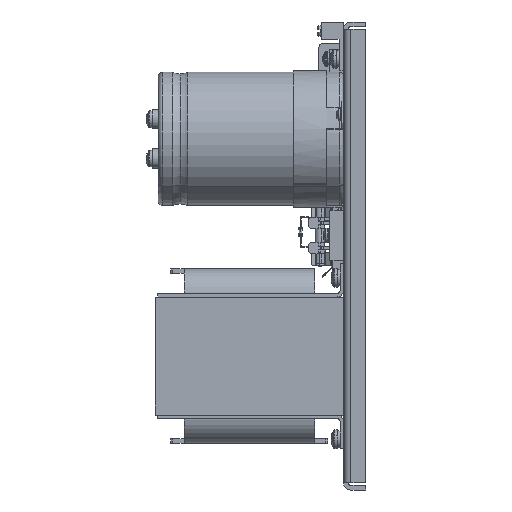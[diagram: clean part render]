
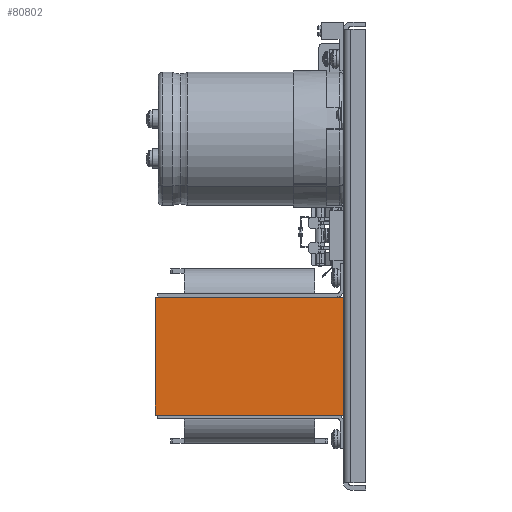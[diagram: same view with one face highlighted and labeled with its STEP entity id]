
A CAD part, left-side view. The second image highlights one B-rep face of the part: STEP entity #80802.
In plain terms, the highlighted planar face has unit normal (-1, 0, 0).
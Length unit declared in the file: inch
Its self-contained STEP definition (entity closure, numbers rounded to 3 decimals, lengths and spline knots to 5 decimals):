
#70255=DIRECTION('',(0.,1.,0.));
#70256=VECTOR('',#70255,4.228);
#70257=CARTESIAN_POINT('',(-5.371,0.,-3.569));
#70258=LINE('',#70257,#70256);
#70325=DIRECTION('',(0.,1.,0.));
#70326=VECTOR('',#70325,4.228);
#70327=CARTESIAN_POINT('',(-5.371,0.,-0.922));
#70328=LINE('',#70327,#70326);
#70332=DIRECTION('',(0.,0.,1.));
#70333=VECTOR('',#70332,2.647);
#70334=CARTESIAN_POINT('',(-5.371,0.,-3.569));
#70335=LINE('',#70334,#70333);
#70346=DIRECTION('',(0.,0.,1.));
#70347=VECTOR('',#70346,2.647);
#70348=CARTESIAN_POINT('',(-5.371,4.228,-3.569));
#70349=LINE('',#70348,#70347);
#78846=CARTESIAN_POINT('',(-5.371,0.,-0.922));
#78847=CARTESIAN_POINT('',(-5.371,4.228,-0.922));
#78848=VERTEX_POINT('',#78846);
#78849=VERTEX_POINT('',#78847);
#79038=CARTESIAN_POINT('',(-5.371,0.,-3.569));
#79040=VERTEX_POINT('',#79038);
#79345=CARTESIAN_POINT('',(-5.371,4.228,-3.569));
#79346=VERTEX_POINT('',#79345);
#80789=CARTESIAN_POINT('',(-5.371,0.,-0.922));
#80790=DIRECTION('',(1.,0.,0.));
#80791=DIRECTION('',(0.,0.,-1.));
#80792=AXIS2_PLACEMENT_3D('',#80789,#80790,#80791);
#80793=PLANE('',#80792);
#80794=ORIENTED_EDGE('',*,*,#80706,.T.);
#80796=ORIENTED_EDGE('',*,*,#80795,.T.);
#80798=ORIENTED_EDGE('',*,*,#80797,.F.);
#80799=ORIENTED_EDGE('',*,*,#80774,.F.);
#80800=EDGE_LOOP('',(#80794,#80796,#80798,#80799));
#80801=FACE_OUTER_BOUND('',#80800,.F.);
#80706=EDGE_CURVE('',#79040,#79346,#70258,.T.);
#80774=EDGE_CURVE('',#79040,#78848,#70335,.T.);
#80795=EDGE_CURVE('',#79346,#78849,#70349,.T.);
#80797=EDGE_CURVE('',#78848,#78849,#70328,.T.);
#80802=ADVANCED_FACE('',(#80801),#80793,.F.);
